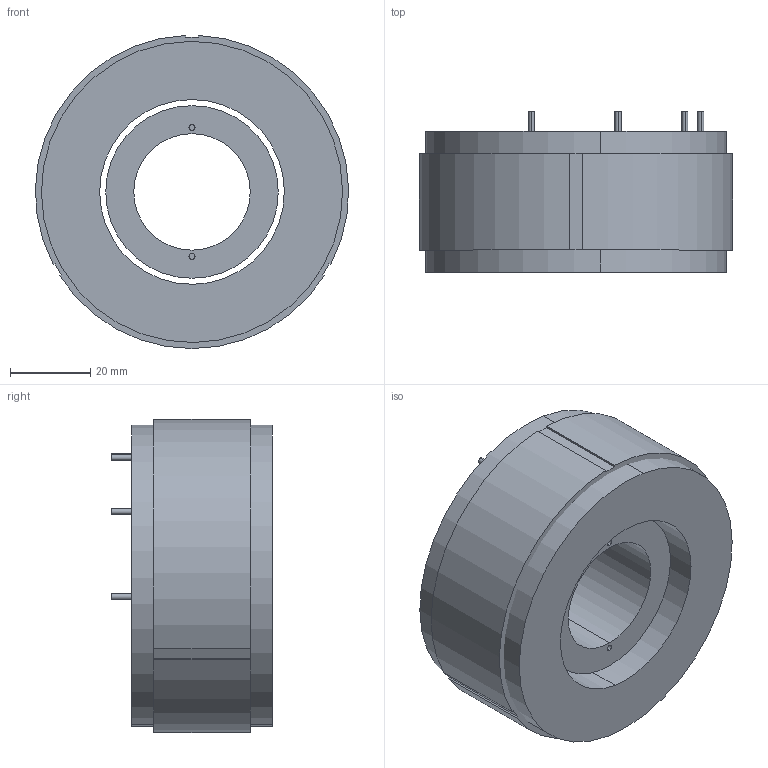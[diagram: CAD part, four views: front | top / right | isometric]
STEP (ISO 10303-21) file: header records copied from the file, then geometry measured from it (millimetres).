
FILE_DESCRIPTION (( 'STEP AP203' ), '1' );
FILE_NAME ('TM78-34 KIT 3D.STEP', '2021-03-22T04:39:05', ( '' ), ( '' ), 'SwSTEP 2.0', 'SolidWorks 2021', '' );
FILE_SCHEMA (( 'CONFIG_CONTROL_DESIGN' ));
Length unit declared in the file: millimetre
Products named in the file (1): TM78-34 KIT 3D
Bounding box: 77.99 x 40 x 77.97 mm (x, y, z)
Volume: 134343.5 mm3; surface area: 39309.6 mm2
Topology: 3 solids, 3 shells, 128 faces, 342 edges, 228 vertices
Faces by surface type: cylinder 87, plane 41
Entity records: 4165 total; most frequent: DIRECTION 774, CARTESIAN_POINT 699, ORIENTED_EDGE 684, EDGE_CURVE 342, AXIS2_PLACEMENT_3D 303, VERTEX_POINT 228, CIRCLE 174, LINE 168
